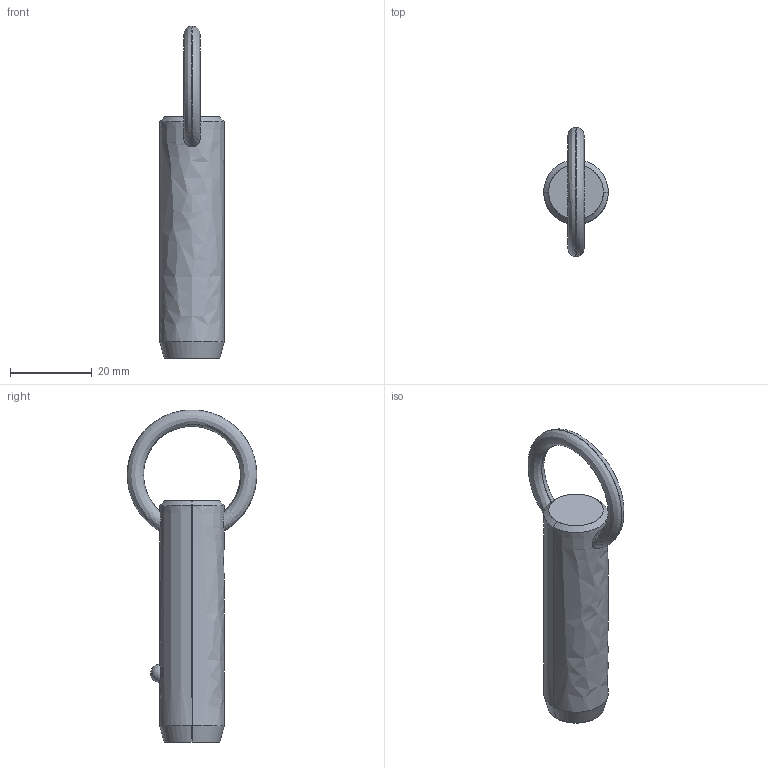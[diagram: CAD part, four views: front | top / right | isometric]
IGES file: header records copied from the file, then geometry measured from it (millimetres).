
Start section: SolidWorks IGES file using analytic representation for surfaces
Global section: file name: C:\Users\liam_\OneDrive\Documents\WORK\Work for WixRoyd\Job Files\J-00019 - Matt Davis CAD Checking\04. CAD Drawings\automotion20190605\P1250.2_v2\P1250.2_v2_20190729_IGES\P1250.062-120.igs; native system: SolidWorks 2017; preprocessor: SolidWorks 2017; author: liam_; date: 190729.233008; units: millimetre
Bounding box: 15.8 x 31.7 x 81.19 mm (x, y, z)
Surface area: 4102.4 mm2 (no closed solid volume)
Topology: 0 solids, 0 shells, 12 faces, 292 edges, 290 vertices
Faces by surface type: revolution 8, bspline 4
